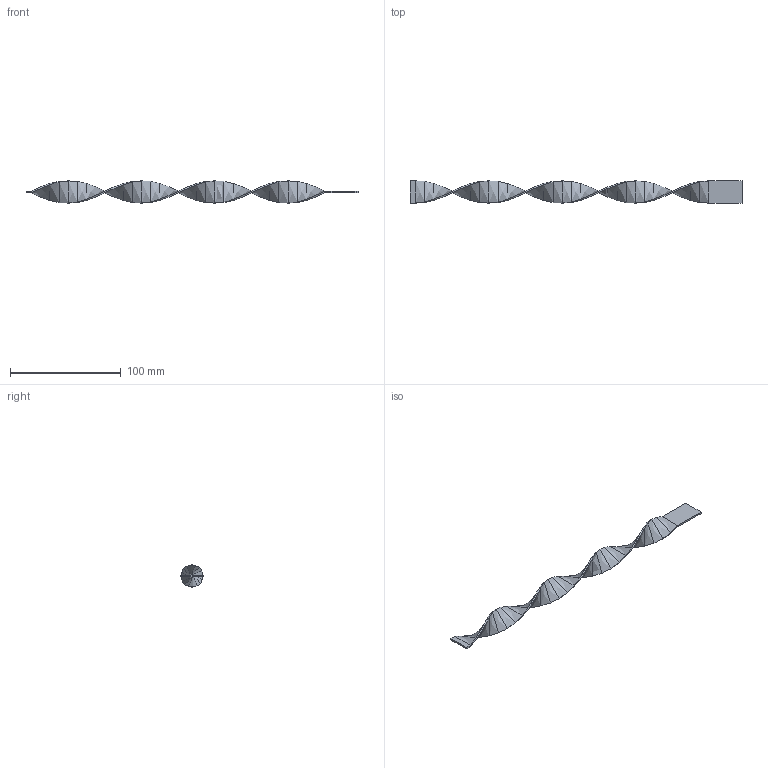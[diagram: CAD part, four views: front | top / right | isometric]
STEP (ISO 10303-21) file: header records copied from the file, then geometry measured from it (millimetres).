
FILE_DESCRIPTION( ( 'STEP AP214' ), '1' );
FILE_NAME( 'p:/temp/worker_249/temp/exporttempdir_6124_532_bsq25/format_0/RLAS-20SMx300.stp', '2021-11-01T10:50:18', ( 'License CC BY-ND 4.0' ), ( 'CADENAS' ), ' ', 'PARTsolutions', ' ' );
FILE_SCHEMA( ( 'AUTOMOTIVE_DESIGN { 1 0 10303 214 1 1 1 1 }' ) );
Length unit declared in the file: millimetre
Products named in the file (1): _RLAS-20SMx300
Bounding box: 300 x 20.6 x 20 mm (x, y, z)
Volume: 8799.6 mm3; surface area: 13189.8 mm2
Topology: 1 solids, 1 shells, 146 faces, 300 edges, 156 vertices
Faces by surface type: bspline 128, plane 18
Entity records: 5280 total; most frequent: CARTESIAN_POINT 2015, ORIENTED_EDGE 600, EDGE_CURVE 300, B_SPLINE_CURVE_WITH_KNOTS 260, VERTEX_POINT 156, STYLED_ITEM 146, PRESENTATION_STYLE_ASSIGNMENT 146, ADVANCED_FACE 146
